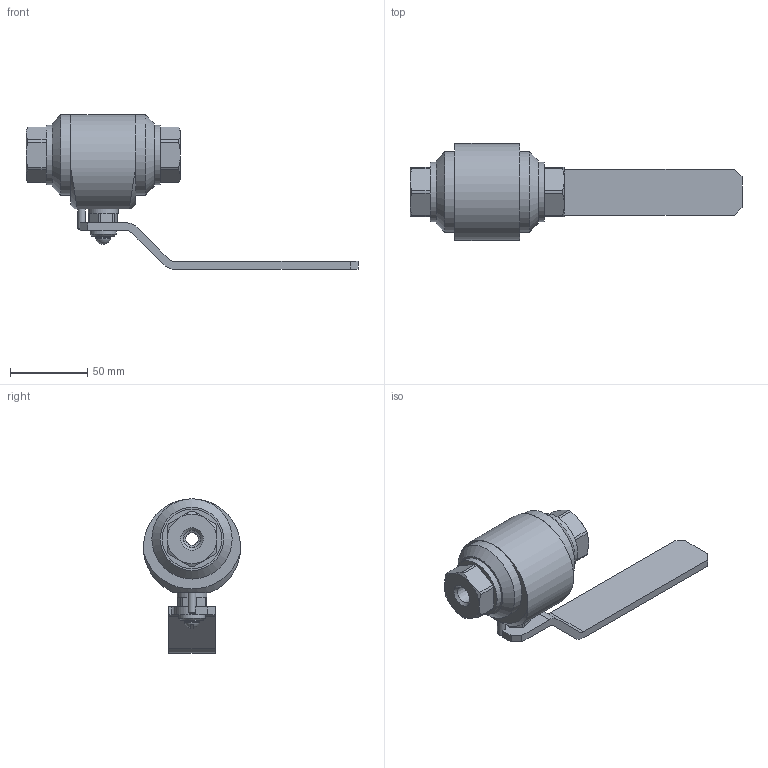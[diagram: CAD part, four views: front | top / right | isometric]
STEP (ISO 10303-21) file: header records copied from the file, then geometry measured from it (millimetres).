
FILE_DESCRIPTION(('STEP AP203'), '1');
FILE_NAME('ZARDP 008.320.10.P.stp', '2013-12-05T08:15:45', ('Øèøêî'), ('ÎÎÎ ÈÊ Ýíåðïðåä-ßðäîñ'), 'ASCON STEP Converter 1.3', 'Kompas 3D', '');
FILE_SCHEMA(('CONFIG_CONTROL_DESIGN','SUPPORT_RESOURCE_SCHEMA'));
Length unit declared in the file: millimetre
Products named in the file (1): 20
Bounding box: 215 x 62.85 x 100 mm (x, y, z)
Volume: 214853.2 mm3; surface area: 42952.6 mm2
Topology: 1 solids, 2 shells, 169 faces, 414 edges, 260 vertices
Faces by surface type: plane 87, cylinder 50, cone 31, sphere 1
Full cylindrical faces by diameter (mm): 5 x2, 6 x1, 6.5 x1, 8 x2, 10 x1, 10.7 x1, 10.917 x1, 12 x1, 12.1 x1, 14 x1, 17 x1, 19.4 x1, 19.8 x1, 20 x2, 31.4 x1, 38.5 x2, 52 x2
Entity records: 6237 total; most frequent: CARTESIAN_POINT 2095, DIRECTION 873, ORIENTED_EDGE 828, EDGE_CURVE 414, AXIS2_PLACEMENT_3D 334, VERTEX_POINT 260, LINE 205, VECTOR 205
